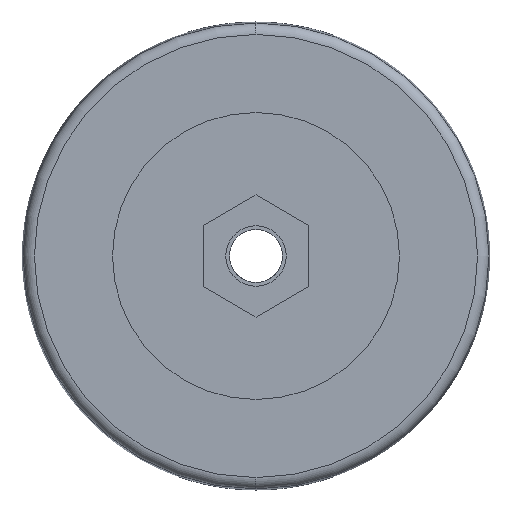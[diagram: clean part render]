
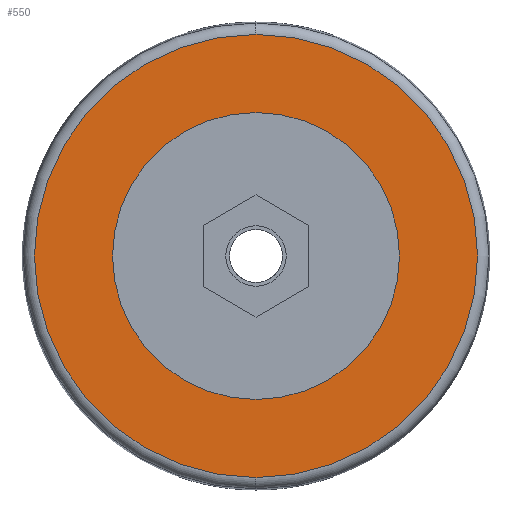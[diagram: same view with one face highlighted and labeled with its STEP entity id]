
A CAD part, left-side view. The second image highlights one B-rep face of the part: STEP entity #550.
In plain terms, the highlighted planar face has unit normal (-1, 0, 0).
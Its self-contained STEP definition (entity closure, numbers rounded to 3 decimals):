
#31 = VERTEX_POINT ( 'NONE', #1388 ) ;
#75 = DIRECTION ( 'NONE',  ( 0., 0., 1. ) ) ;
#158 = FACE_BOUND ( 'NONE', #451, .T. ) ;
#170 = CARTESIAN_POINT ( 'NONE',  ( -21.815, 3.749, 0. ) ) ;
#211 = EDGE_CURVE ( 'NONE', #725, #1487, #748, .T. ) ;
#271 = ORIENTED_EDGE ( 'NONE', *, *, #663, .F. ) ;
#274 = CARTESIAN_POINT ( 'NONE',  ( -21.815, 3.749, 0. ) ) ;
#363 = EDGE_CURVE ( 'NONE', #1487, #725, #776, .T. ) ;
#451 = EDGE_LOOP ( 'NONE', ( #1878, #271 ) ) ;
#464 = AXIS2_PLACEMENT_3D ( 'NONE', #1404, #822, #1258 ) ;
#550 = ADVANCED_FACE ( 'NONE', ( #1271, #158 ), #1513, .T. ) ;
#582 = DIRECTION ( 'NONE',  ( 0., 0., 1. ) ) ;
#663 = EDGE_CURVE ( 'NONE', #1661, #31, #1089, .T. ) ;
#699 = AXIS2_PLACEMENT_3D ( 'NONE', #274, #1182, #1428 ) ;
#725 = VERTEX_POINT ( 'NONE', #1110 ) ;
#748 = CIRCLE ( 'NONE', #1227, 29.343 ) ;
#776 = CIRCLE ( 'NONE', #699, 29.343 ) ;
#822 = DIRECTION ( 'NONE',  ( -1., 0., 0. ) ) ;
#857 = EDGE_CURVE ( 'NONE', #31, #1661, #1498, .T. ) ;
#916 = CARTESIAN_POINT ( 'NONE',  ( -21.815, 3.749, 0. ) ) ;
#1014 = CARTESIAN_POINT ( 'NONE',  ( -21.815, 3.749, 19. ) ) ;
#1073 = DIRECTION ( 'NONE',  ( -1., 0., 0. ) ) ;
#1089 = CIRCLE ( 'NONE', #1451, 19. ) ;
#1110 = CARTESIAN_POINT ( 'NONE',  ( -21.815, 3.749, 29.343 ) ) ;
#1182 = DIRECTION ( 'NONE',  ( -1., 0., 0. ) ) ;
#1218 = AXIS2_PLACEMENT_3D ( 'NONE', #170, #1516, #582 ) ;
#1227 = AXIS2_PLACEMENT_3D ( 'NONE', #916, #1073, #75 ) ;
#1247 = DIRECTION ( 'NONE',  ( 0., 0., 1. ) ) ;
#1258 = DIRECTION ( 'NONE',  ( 0., 0., 1. ) ) ;
#1271 = FACE_OUTER_BOUND ( 'NONE', #1508, .T. ) ;
#1343 = ORIENTED_EDGE ( 'NONE', *, *, #211, .T. ) ;
#1388 = CARTESIAN_POINT ( 'NONE',  ( -21.815, 3.749, -19. ) ) ;
#1404 = CARTESIAN_POINT ( 'NONE',  ( -21.815, 34.553, 0. ) ) ;
#1428 = DIRECTION ( 'NONE',  ( 0., 0., 1. ) ) ;
#1451 = AXIS2_PLACEMENT_3D ( 'NONE', #1544, #1472, #1247 ) ;
#1472 = DIRECTION ( 'NONE',  ( -1., 0., 0. ) ) ;
#1487 = VERTEX_POINT ( 'NONE', #1778 ) ;
#1498 = CIRCLE ( 'NONE', #1218, 19. ) ;
#1508 = EDGE_LOOP ( 'NONE', ( #1343, #1805 ) ) ;
#1513 = PLANE ( 'NONE',  #464 ) ;
#1516 = DIRECTION ( 'NONE',  ( -1., 0., 0. ) ) ;
#1544 = CARTESIAN_POINT ( 'NONE',  ( -21.815, 3.749, 0. ) ) ;
#1661 = VERTEX_POINT ( 'NONE', #1014 ) ;
#1778 = CARTESIAN_POINT ( 'NONE',  ( -21.815, 3.749, -29.343 ) ) ;
#1805 = ORIENTED_EDGE ( 'NONE', *, *, #363, .T. ) ;
#1878 = ORIENTED_EDGE ( 'NONE', *, *, #857, .F. ) ;
